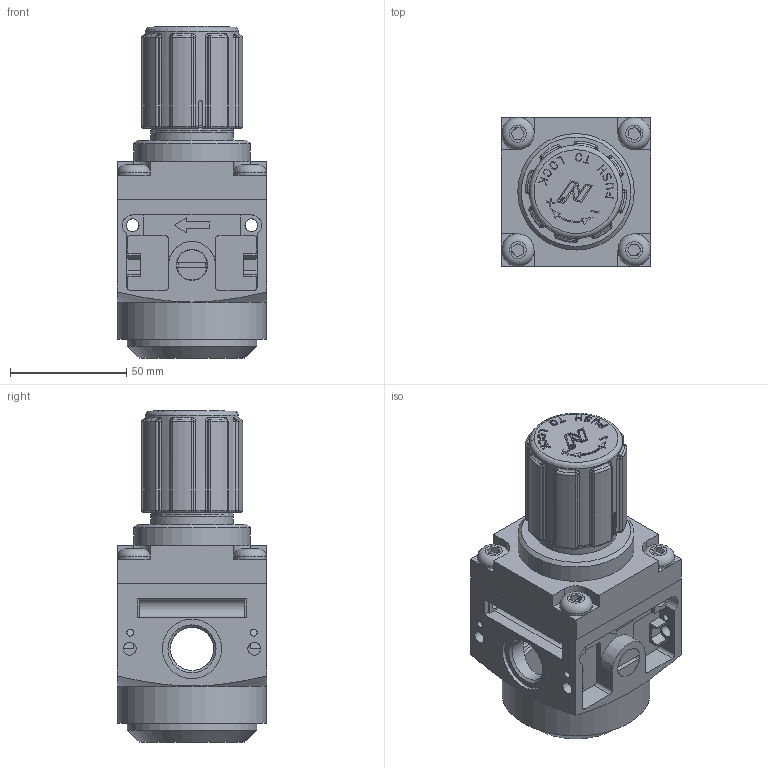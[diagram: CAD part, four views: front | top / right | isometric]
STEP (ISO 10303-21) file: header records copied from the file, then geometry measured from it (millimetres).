
FILE_DESCRIPTION(/* description */ (''),/* implementation_level */ '2;1');
FILE_NAME(/* name */ 'U:/AirCom-Produktdokumentation/Druckregler/RD/Zeichnungen/CAD-Aircom/3D/B-RD2-03x.step',/* time_stamp */ '2022-08-08T15:34:35+02:00',/* author */ (''),/* organization */ (''),/* preprocessor_version */ 'ST-DEVELOPER v19',/* originating_system */ 'Autodesk Translation Framework v11.7.0.108',/* authorisation */ '');
FILE_SCHEMA (('AUTOMOTIVE_DESIGN { 1 0 10303 214 3 1 1 }'));
Length unit declared in the file: millimetre
Products named in the file (11): C81027; P20095; P40018; P21012; 0DS50510; 0DS50510_1; 0DS50510_2; 0DS50510_3; P34104; P33007; P34222
Assembly tree (10 placements, depth 2):
  C81027
    P20095
    P40018
    P21012
    0DS50510
    0DS50510_1
    0DS50510_2
    0DS50510_3
    P34104
    P33007
    P34222
Bounding box: 64 x 64 x 142.6 mm (x, y, z)
Volume: 112835.7 mm3; surface area: 85535.9 mm2
Topology: 11 solids, 11 shells, 954 faces, 2440 edges, 1558 vertices
Faces by surface type: plane 554, cylinder 209, torus 82, bspline 42, cone 35, sphere 32
Full cylindrical faces by diameter (mm): 1 x12, 3 x7, 5.5 x8, 7.134 x4, 8 x6, 8.5 x4, 11.445 x2, 13.157 x1, 14 x4, 18.631 x2, 25.5 x1, 33 x1, 35.5 x2, 39 x1, 40 x1, 45 x1, 49 x2, 50 x1, 53.9 x1, 54 x1, 55.5 x1, 56 x1, 56.376 x1, 57 x2, 58 x1, 59 x1, 60 x1, 60.2 x1, 60.5 x1, 62 x1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
Entity records: 30812 total; most frequent: CARTESIAN_POINT 7149, ORIENTED_EDGE 4840, DIRECTION 4826, EDGE_CURVE 2420, AXIS2_PLACEMENT_3D 1627, LINE 1572, VECTOR 1572, VERTEX_POINT 1558
